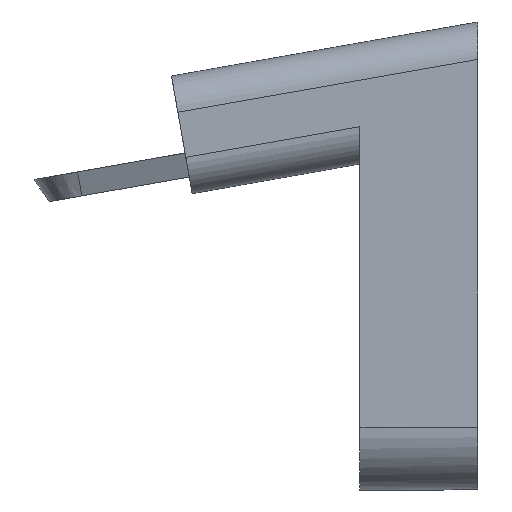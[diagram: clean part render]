
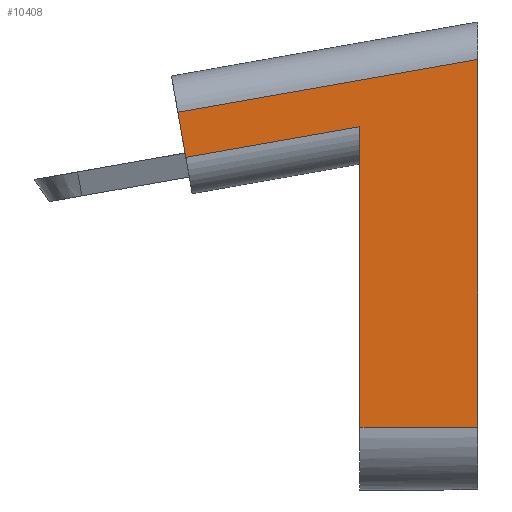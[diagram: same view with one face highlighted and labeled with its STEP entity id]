
A CAD part, left-side view. The second image highlights one B-rep face of the part: STEP entity #10408.
In plain terms, the highlighted planar face has unit normal (-1, 0, 0).
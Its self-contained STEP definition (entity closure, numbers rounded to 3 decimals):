
#207 = LINE ( 'NONE', #9501, #3297 ) ;
#639 = DIRECTION ( 'NONE',  ( 0., 0.174, 0.985 ) ) ;
#1131 = ORIENTED_EDGE ( 'NONE', *, *, #8425, .T. ) ;
#1404 = LINE ( 'NONE', #6734, #7195 ) ;
#1561 = VERTEX_POINT ( 'NONE', #9512 ) ;
#1709 = DIRECTION ( 'NONE',  ( -1., 0., 0. ) ) ;
#2558 = CARTESIAN_POINT ( 'NONE',  ( -41., 0., -5.077 ) ) ;
#2791 = CARTESIAN_POINT ( 'NONE',  ( -41., 16., -54.971 ) ) ;
#3004 = VERTEX_POINT ( 'NONE', #8623 ) ;
#3297 = VECTOR ( 'NONE', #10649, 1000. ) ;
#3372 = VECTOR ( 'NONE', #639, 1000. ) ;
#3405 = CARTESIAN_POINT ( 'NONE',  ( -41., 16., -19.271 ) ) ;
#3648 = LINE ( 'NONE', #3405, #6356 ) ;
#3741 = ORIENTED_EDGE ( 'NONE', *, *, #11699, .T. ) ;
#4421 = ORIENTED_EDGE ( 'NONE', *, *, #10912, .F. ) ;
#5047 = VECTOR ( 'NONE', #9400, 1000. ) ;
#5070 = VERTEX_POINT ( 'NONE', #2558 ) ;
#5481 = EDGE_LOOP ( 'NONE', ( #6562, #15010, #4421, #1131, #12115, #3741 ) ) ;
#5593 = LINE ( 'NONE', #11061, #11358 ) ;
#6306 = CARTESIAN_POINT ( 'NONE',  ( -41., 0., 0. ) ) ;
#6356 = VECTOR ( 'NONE', #11479, 1000. ) ;
#6562 = ORIENTED_EDGE ( 'NONE', *, *, #13282, .F. ) ;
#6734 = CARTESIAN_POINT ( 'NONE',  ( -41., 40.691, -12.252 ) ) ;
#7195 = VECTOR ( 'NONE', #14787, 1000. ) ;
#8104 = LINE ( 'NONE', #11661, #5047 ) ;
#8227 = VERTEX_POINT ( 'NONE', #2791 ) ;
#8388 = AXIS2_PLACEMENT_3D ( 'NONE', #6306, #1709, #9793 ) ;
#8425 = EDGE_CURVE ( 'NONE', #8227, #9665, #5593, .T. ) ;
#8623 = CARTESIAN_POINT ( 'NONE',  ( -41., 16., -14.194 ) ) ;
#8627 = PLANE ( 'NONE',  #8388 ) ;
#8676 = VERTEX_POINT ( 'NONE', #12610 ) ;
#8734 = CARTESIAN_POINT ( 'NONE',  ( -41., 41.559, -7.328 ) ) ;
#8783 = EDGE_CURVE ( 'NONE', #5070, #9665, #8104, .T. ) ;
#9400 = DIRECTION ( 'NONE',  ( 0., 0., -1. ) ) ;
#9501 = CARTESIAN_POINT ( 'NONE',  ( -41., 16.868, -14.347 ) ) ;
#9512 = CARTESIAN_POINT ( 'NONE',  ( -41., 40.691, -12.252 ) ) ;
#9665 = VERTEX_POINT ( 'NONE', #9779 ) ;
#9779 = CARTESIAN_POINT ( 'NONE',  ( -41., 0., -54.971 ) ) ;
#9793 = DIRECTION ( 'NONE',  ( 0., 0., 1. ) ) ;
#9971 = FACE_OUTER_BOUND ( 'NONE', #5481, .T. ) ;
#10216 = EDGE_CURVE ( 'NONE', #8676, #3004, #207, .T. ) ;
#10408 = ADVANCED_FACE ( 'NONE', ( #9971 ), #8627, .T. ) ;
#10649 = DIRECTION ( 'NONE',  ( 0., -0.985, 0.174 ) ) ;
#10912 = EDGE_CURVE ( 'NONE', #8227, #3004, #3648, .T. ) ;
#11061 = CARTESIAN_POINT ( 'NONE',  ( -41., 0., -54.971 ) ) ;
#11358 = VECTOR ( 'NONE', #13355, 1000. ) ;
#11479 = DIRECTION ( 'NONE',  ( 0., 0., 1. ) ) ;
#11661 = CARTESIAN_POINT ( 'NONE',  ( -41., 0., -63.471 ) ) ;
#11699 = EDGE_CURVE ( 'NONE', #5070, #1561, #1404, .T. ) ;
#12115 = ORIENTED_EDGE ( 'NONE', *, *, #8783, .F. ) ;
#12575 = LINE ( 'NONE', #8734, #3372 ) ;
#12610 = CARTESIAN_POINT ( 'NONE',  ( -41., 39.614, -18.358 ) ) ;
#13282 = EDGE_CURVE ( 'NONE', #8676, #1561, #12575, .T. ) ;
#13355 = DIRECTION ( 'NONE',  ( 0., -1., 0. ) ) ;
#14787 = DIRECTION ( 'NONE',  ( 0., 0.985, -0.174 ) ) ;
#15010 = ORIENTED_EDGE ( 'NONE', *, *, #10216, .T. ) ;
